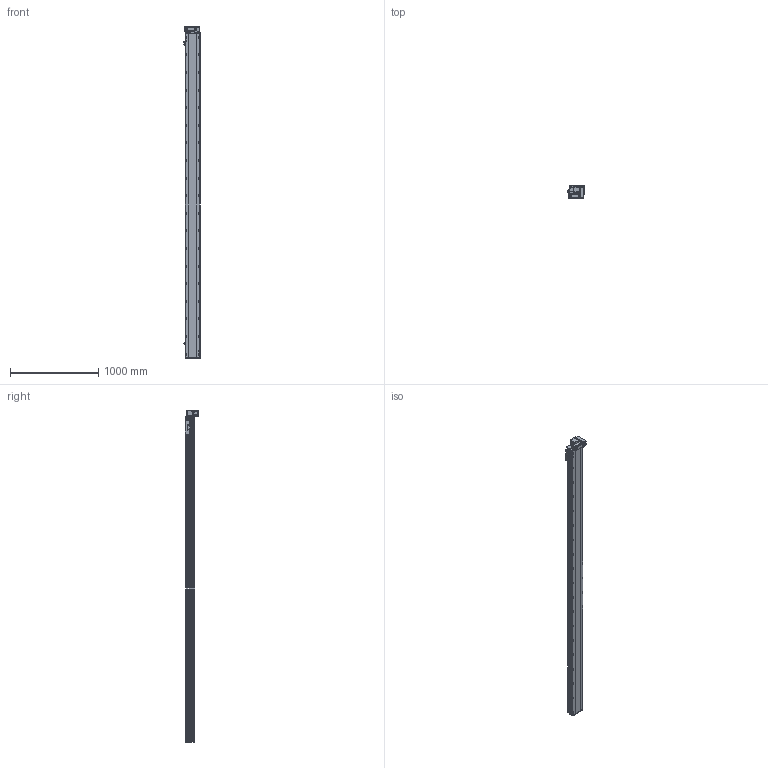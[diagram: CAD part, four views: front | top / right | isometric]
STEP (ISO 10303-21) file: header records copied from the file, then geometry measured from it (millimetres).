
FILE_DESCRIPTION (( 'STEP AP214' ), '1' );
FILE_NAME ('RTB17S-XX-340-RM-M40-C4.STEP', '2025-12-11T08:38:14', ( '' ), ( '' ), 'SwSTEP 2.0', 'SolidWorks 2018', '' );
FILE_SCHEMA (( 'AUTOMOTIVE_DESIGN' ));
Length unit declared in the file: millimetre
Products named in the file (14): RTB17S-L-001耜醱啣^RTB17S-XX-XX-RM-M40-C4; 400W侜督萇儂^RTB17S-XX-XX-RM-M40-C4; RTB14-L-017P^RTB17S-RM-々湍釱蚾饜-400W_RTB17S-XX-XX-RM-M40-C4; RTH13-BL-012覜茼え俋离^RTB17S-XX-XX-RM-M40-C4; RTB17S-L-014-T20--々湍釱^RTB17S-RM-々湍釱蚾饜-400W_RTB17S-XX-XX-RM-M40-C4; RTB17S-L-007奻裔^RTB17S-XX-XX-RM-M40-C4; RTB17-R-011菁釱^RTB17S-XX-XX-RM-M40-C4; RTB17S-XX-340-RM-M40-C4; RTB14-L-005P--轴承塑胶压盖^RTB17S-RM-皮带座装配-400W_RTB17S-XX-XX-RM-M40-C4; RTB17S-RM-々湍釱蚾饜-400W^RTB17S-XX-XX-RM-M40-C4; OMRON EE-SX672 传感器^RTB17S-XX-XX-RM-M40-C4; RTB14-L-018P^RTB17S-RM-々湍釱蚾饜-400W_RTB17S-XX-XX-RM-M40-C4; RTB17S-L-004佪裝蹟譫蟀諉釱^RTB17S-XX-XX-RM-M40-C4; RTB14-L-008-M20--萇儂啣^RTB17S-RM-々湍釱蚾饜-400W_RTB17S-XX-XX-RM-M40-C4
Assembly tree (16 placements, depth 3):
  RTB17S-XX-340-RM-M40-C4
    RTB17-R-011菁釱^RTB17S-XX-XX-RM-M40-C4
    RTB17S-L-007奻裔^RTB17S-XX-XX-RM-M40-C4
    OMRON EE-SX672 传感器^RTB17S-XX-XX-RM-M40-C4  x3
    RTB17S-L-001耜醱啣^RTB17S-XX-XX-RM-M40-C4
    400W侜督萇儂^RTB17S-XX-XX-RM-M40-C4
    RTB17S-L-004佪裝蹟譫蟀諉釱^RTB17S-XX-XX-RM-M40-C4
    RTH13-BL-012覜茼え俋离^RTB17S-XX-XX-RM-M40-C4
    RTB17S-RM-々湍釱蚾饜-400W^RTB17S-XX-XX-RM-M40-C4
      RTB17S-L-014-T20--々湍釱^RTB17S-RM-々湍釱蚾饜-400W_RTB17S-XX-XX-RM-M40-C4
      RTB14-L-005P--轴承塑胶压盖^RTB17S-RM-皮带座装配-400W_RTB17S-XX-XX-RM-M40-C4
      RTB14-L-008-M20--萇儂啣^RTB17S-RM-々湍釱蚾饜-400W_RTB17S-XX-XX-RM-M40-C4
      RTB14-L-017P^RTB17S-RM-々湍釱蚾饜-400W_RTB17S-XX-XX-RM-M40-C4  x2
      RTB14-L-018P^RTB17S-RM-々湍釱蚾饜-400W_RTB17S-XX-XX-RM-M40-C4
Bounding box: 183.5 x 156.5 x 3772.5 mm (x, y, z)
Volume: 31948757.7 mm3; surface area: 3631464.8 mm2
Topology: 15 solids, 15 shells, 2397 faces, 6735 edges, 4401 vertices
Faces by surface type: plane 1092, cylinder 857, bspline 301, cone 139, torus 8
Entity records: 71849 total; most frequent: CARTESIAN_POINT 20540, ORIENTED_EDGE 10314, DIRECTION 9476, EDGE_CURVE 5157, VERTEX_POINT 3389, AXIS2_PLACEMENT_3D 3319, VECTOR 2838, LINE 2838
